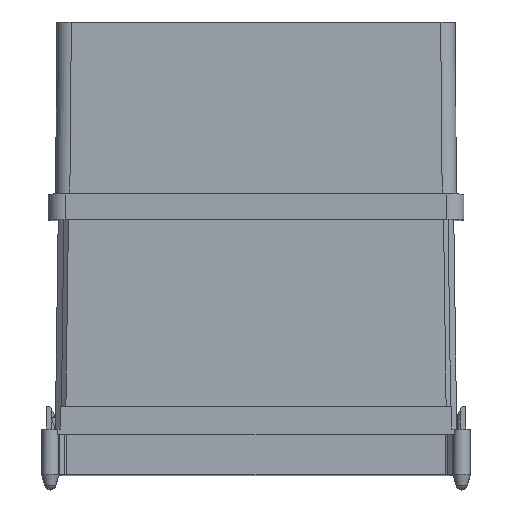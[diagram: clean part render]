
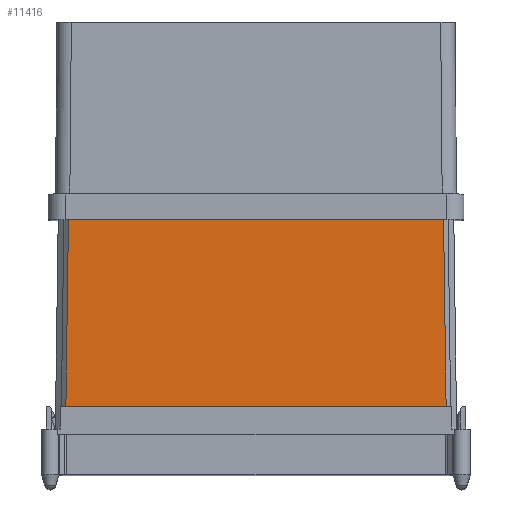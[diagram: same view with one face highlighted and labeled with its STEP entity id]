
A CAD part, top view. The second image highlights one B-rep face of the part: STEP entity #11416.
In plain terms, the highlighted planar face has unit normal (0, 0.014, 1).
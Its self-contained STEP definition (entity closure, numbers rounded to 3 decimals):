
#1083=FACE_OUTER_BOUND('',#1724,.T.);
#1724=EDGE_LOOP('',(#9408,#9409,#9410,#9411,#9412,#9413,#9414,#9415));
#2720=LINE('',#22682,#3556);
#2722=LINE('',#22686,#3558);
#3102=LINE('',#24112,#3938);
#3107=LINE('',#24122,#3943);
#3108=LINE('',#24124,#3944);
#3109=LINE('',#24126,#3945);
#3110=LINE('',#24127,#3946);
#3111=LINE('',#24128,#3947);
#3556=VECTOR('',#14039,1.);
#3558=VECTOR('',#14041,1.);
#3938=VECTOR('',#15221,10.);
#3943=VECTOR('',#15230,1.);
#3944=VECTOR('',#15231,1.);
#3945=VECTOR('',#15232,1.);
#3946=VECTOR('',#15233,1.);
#3947=VECTOR('',#15234,10.);
#4606=VERTEX_POINT('',#22679);
#4607=VERTEX_POINT('',#22681);
#4608=VERTEX_POINT('',#22683);
#4609=VERTEX_POINT('',#22685);
#5002=VERTEX_POINT('',#24109);
#5003=VERTEX_POINT('',#24111);
#5007=VERTEX_POINT('',#24123);
#5008=VERTEX_POINT('',#24125);
#5899=EDGE_CURVE('',#4606,#4607,#2720,.T.);
#5901=EDGE_CURVE('',#4608,#4609,#2722,.T.);
#6505=EDGE_CURVE('',#5003,#5002,#3102,.T.);
#6510=EDGE_CURVE('',#4609,#5002,#3107,.T.);
#6511=EDGE_CURVE('',#4608,#5007,#3108,.T.);
#6512=EDGE_CURVE('',#5008,#5007,#3109,.T.);
#6513=EDGE_CURVE('',#4607,#5008,#3110,.T.);
#6514=EDGE_CURVE('',#5003,#4606,#3111,.T.);
#9408=ORIENTED_EDGE('',*,*,#6505,.T.);
#9409=ORIENTED_EDGE('',*,*,#6510,.F.);
#9410=ORIENTED_EDGE('',*,*,#5901,.F.);
#9411=ORIENTED_EDGE('',*,*,#6511,.T.);
#9412=ORIENTED_EDGE('',*,*,#6512,.F.);
#9413=ORIENTED_EDGE('',*,*,#6513,.F.);
#9414=ORIENTED_EDGE('',*,*,#5899,.F.);
#9415=ORIENTED_EDGE('',*,*,#6514,.F.);
#10176=PLANE('',#12516);
#11416=ADVANCED_FACE('',(#1083),#10176,.T.);
#12516=AXIS2_PLACEMENT_3D('',#24121,#15228,#15229);
#14039=DIRECTION('',(-1.,0.,0.));
#14041=DIRECTION('',(-1.,0.,0.));
#15221=DIRECTION('',(-1.,0.,0.));
#15228=DIRECTION('center_axis',(0.,0.014,
1.));
#15229=DIRECTION('ref_axis',(0.,1.,-0.014));
#15230=DIRECTION('',(0.014,1.,-0.014));
#15231=DIRECTION('',(0.,1.,-0.014));
#15232=DIRECTION('',(-1.,0.,0.));
#15233=DIRECTION('',(0.,1.,-0.014));
#15234=DIRECTION('',(0.014,-1.,0.014));
#22679=CARTESIAN_POINT('',(66.424,-142.,70.));
#22681=CARTESIAN_POINT('',(45.5,-142.,70.));
#22682=CARTESIAN_POINT('',(55.962,-142.,70.));
#22683=CARTESIAN_POINT('',(35.5,-142.,70.));
#22685=CARTESIAN_POINT('',(-66.424,-142.,70.));
#22686=CARTESIAN_POINT('',(-15.462,-142.,70.));
#24109=CARTESIAN_POINT('',(-65.424,-69.,69.));
#24111=CARTESIAN_POINT('',(65.424,-69.,69.));
#24112=CARTESIAN_POINT('',(0.,-69.,69.));
#24121=CARTESIAN_POINT('Origin',(0.,-142.,70.));
#24122=CARTESIAN_POINT('',(-66.363,-137.508,69.939));
#24123=CARTESIAN_POINT('',(35.5,-138.,69.945));
#24124=CARTESIAN_POINT('',(35.5,-140.,69.973));
#24125=CARTESIAN_POINT('',(45.5,-138.,69.945));
#24126=CARTESIAN_POINT('',(40.5,-138.,69.945));
#24127=CARTESIAN_POINT('',(45.5,-140.,69.973));
#24128=CARTESIAN_POINT('',(65.904,-104.045,69.48));
